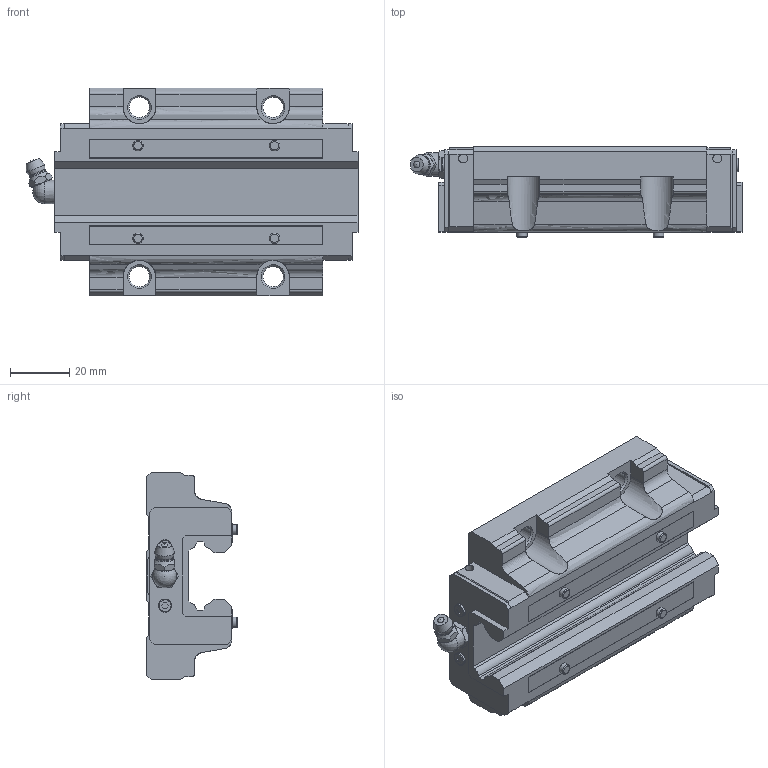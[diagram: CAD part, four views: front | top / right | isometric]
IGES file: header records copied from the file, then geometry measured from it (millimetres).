
Start section: Data from Parasolid IGES Translator 26.0.171, Copyright(c) 2006 Siemens PLM Software. All Rights Reserved.
Global section: file name: HSR25LC1SS(GK) BLOCK(1B-M6F).igs; native system: By Siemens PLM Incorporated; preprocessor: XPlus GENERIC/IGES 26.0.171; author: Noname; organization: Noname; date: 20240521.045844; units: millimetre
Bounding box: 111.8 x 30.5 x 70 mm (x, y, z)
Surface area: 26632 mm2 (no closed solid volume)
Topology: 0 solids, 0 shells, 283 faces, 1528 edges, 1465 vertices
Faces by surface type: extrusion 196, revolution 87
